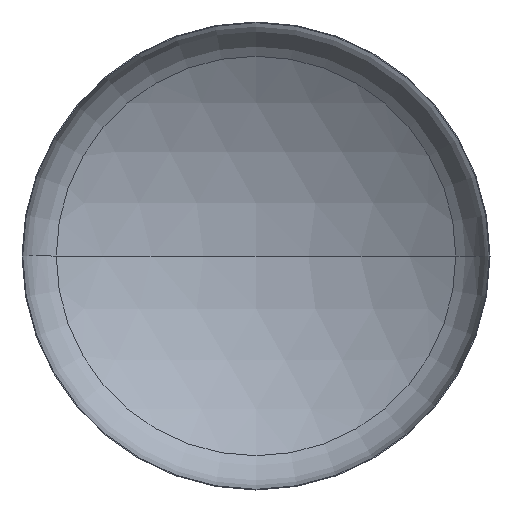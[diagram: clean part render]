
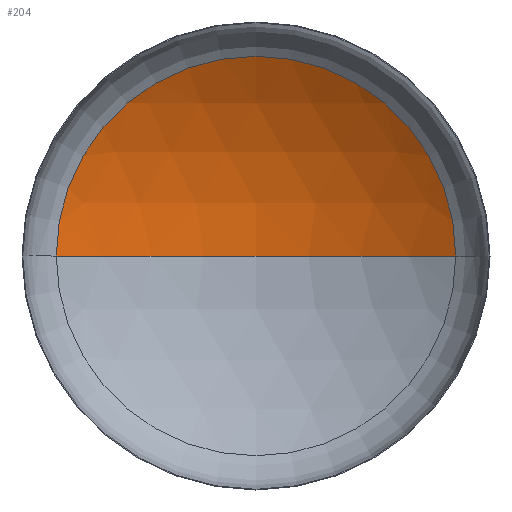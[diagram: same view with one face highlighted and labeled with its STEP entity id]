
A CAD part, front view. The second image highlights one B-rep face of the part: STEP entity #204.
In plain terms, the highlighted spherical face has radius 4400 mm.
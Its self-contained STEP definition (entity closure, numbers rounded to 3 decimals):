
#15 = CARTESIAN_POINT ( 'NONE',  ( 0., 739.64, 0. ) ) ;
#17 = DIRECTION ( 'NONE',  ( 1., 0., 0. ) ) ;
#18 = DIRECTION ( 'NONE',  ( 0., 0., -1. ) ) ;
#53 = DIRECTION ( 'NONE',  ( -1., 0., 0. ) ) ;
#56 = DIRECTION ( 'NONE',  ( 1., 0., 0. ) ) ;
#57 = AXIS2_PLACEMENT_3D ( 'NONE', #398, #222, #17 ) ;
#66 = CARTESIAN_POINT ( 'NONE',  ( 0., 1418.438, 0. ) ) ;
#67 = AXIS2_PLACEMENT_3D ( 'NONE', #120, #337, #156 ) ;
#70 = AXIS2_PLACEMENT_3D ( 'NONE', #15, #250, #56 ) ;
#73 = VERTEX_POINT ( 'NONE', #66 ) ;
#74 = AXIS2_PLACEMENT_3D ( 'NONE', #155, #18, #53 ) ;
#89 = CARTESIAN_POINT ( 'NONE',  ( -2347.904, 739.64, 0. ) ) ;
#99 = ORIENTED_EDGE ( 'NONE', *, *, #236, .F. ) ;
#120 = CARTESIAN_POINT ( 'NONE',  ( 0., -2981.562, 0. ) ) ;
#155 = CARTESIAN_POINT ( 'NONE',  ( 0., -2981.562, 0. ) ) ;
#156 = DIRECTION ( 'NONE',  ( -1., 0., 0. ) ) ;
#188 = ORIENTED_EDGE ( 'NONE', *, *, #210, .T. ) ;
#202 = FACE_OUTER_BOUND ( 'NONE', #325, .T. ) ;
#204 = ADVANCED_FACE ( 'NONE', ( #202 ), #273, .F. ) ;
#209 = ORIENTED_EDGE ( 'NONE', *, *, #228, .T. ) ;
#210 = EDGE_CURVE ( 'NONE', #347, #221, #385, .T. ) ;
#221 = VERTEX_POINT ( 'NONE', #89 ) ;
#222 = DIRECTION ( 'NONE',  ( 0., 0., 1. ) ) ;
#228 = EDGE_CURVE ( 'NONE', #73, #347, #349, .T. ) ;
#236 = EDGE_CURVE ( 'NONE', #73, #221, #306, .T. ) ;
#250 = DIRECTION ( 'NONE',  ( 0., -1., 0. ) ) ;
#273 = SPHERICAL_SURFACE ( 'NONE', #74, 4400. ) ;
#306 = CIRCLE ( 'NONE', #57, 4400. ) ;
#325 = EDGE_LOOP ( 'NONE', ( #99, #209, #188 ) ) ;
#337 = DIRECTION ( 'NONE',  ( 0., 0., -1. ) ) ;
#347 = VERTEX_POINT ( 'NONE', #395 ) ;
#349 = CIRCLE ( 'NONE', #67, 4400. ) ;
#385 = CIRCLE ( 'NONE', #70, 2347.904 ) ;
#395 = CARTESIAN_POINT ( 'NONE',  ( 2347.904, 739.64, 0. ) ) ;
#398 = CARTESIAN_POINT ( 'NONE',  ( 0., -2981.562, 0. ) ) ;
